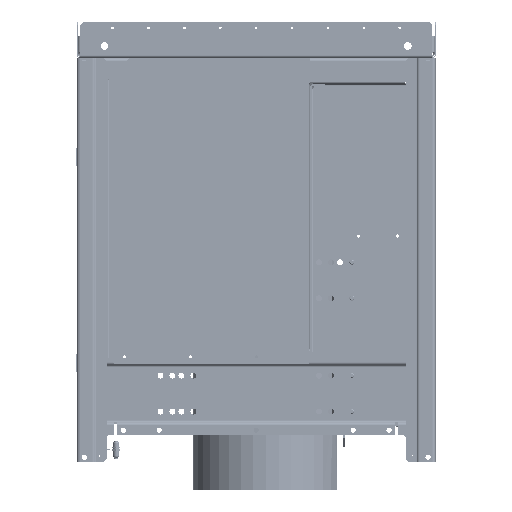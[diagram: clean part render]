
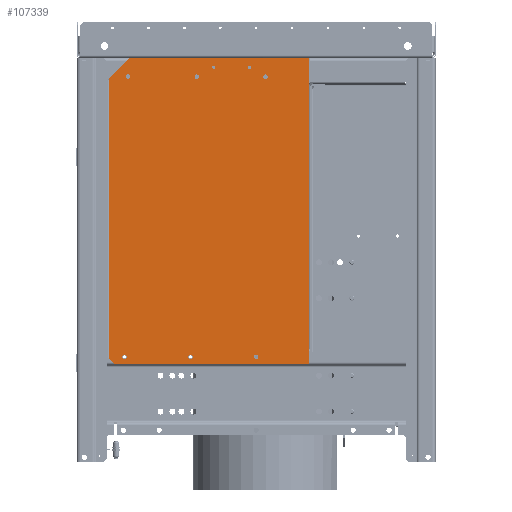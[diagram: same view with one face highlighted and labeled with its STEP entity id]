
A CAD part, left-side view. The second image highlights one B-rep face of the part: STEP entity #107339.
In plain terms, the highlighted planar face has unit normal (-1, 0, 0) as drawn and (0, 0, -1) by its records, which use the part's own axes.
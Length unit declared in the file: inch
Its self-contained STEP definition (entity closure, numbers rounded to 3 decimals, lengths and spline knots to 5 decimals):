
#106442=CARTESIAN_POINT('',(-11.25,18.79402,-0.0396));
#106443=DIRECTION('',(0.,0.,-1.));
#106444=DIRECTION('',(-1.,0.,0.));
#106445=AXIS2_PLACEMENT_3D('',#106442,#106443,#106444);
#106447=CARTESIAN_POINT('',(-11.25,18.79402,-0.0396));
#106448=DIRECTION('',(0.,0.,-1.));
#106449=DIRECTION('',(1.,0.,0.));
#106450=AXIS2_PLACEMENT_3D('',#106447,#106448,#106449);
#106452=CARTESIAN_POINT('',(-11.25,13.04402,-0.0396));
#106453=DIRECTION('',(0.,0.,-1.));
#106454=DIRECTION('',(-1.,0.,0.));
#106455=AXIS2_PLACEMENT_3D('',#106452,#106453,#106454);
#106457=CARTESIAN_POINT('',(-11.25,13.04402,-0.0396));
#106458=DIRECTION('',(0.,0.,-1.));
#106459=DIRECTION('',(1.,0.,0.));
#106460=AXIS2_PLACEMENT_3D('',#106457,#106458,#106459);
#106462=CARTESIAN_POINT('',(-11.25,7.29402,-0.0396));
#106463=DIRECTION('',(0.,0.,-1.));
#106464=DIRECTION('',(-1.,0.,0.));
#106465=AXIS2_PLACEMENT_3D('',#106462,#106463,#106464);
#106467=CARTESIAN_POINT('',(-11.25,7.29402,-0.0396));
#106468=DIRECTION('',(0.,0.,-1.));
#106469=DIRECTION('',(1.,0.,0.));
#106470=AXIS2_PLACEMENT_3D('',#106467,#106468,#106469);
#106472=CARTESIAN_POINT('',(12.18,19.08402,-0.0396));
#106473=DIRECTION('',(0.,0.,-1.));
#106474=DIRECTION('',(-1.,0.,0.));
#106475=AXIS2_PLACEMENT_3D('',#106472,#106473,#106474);
#106477=CARTESIAN_POINT('',(12.18,19.08402,-0.0396));
#106478=DIRECTION('',(0.,0.,-1.));
#106479=DIRECTION('',(1.,0.,0.));
#106480=AXIS2_PLACEMENT_3D('',#106477,#106478,#106479);
#106482=CARTESIAN_POINT('',(12.18,13.58402,-0.0396));
#106483=DIRECTION('',(0.,0.,-1.));
#106484=DIRECTION('',(-1.,0.,0.));
#106485=AXIS2_PLACEMENT_3D('',#106482,#106483,#106484);
#106487=CARTESIAN_POINT('',(12.18,13.58402,-0.0396));
#106488=DIRECTION('',(0.,0.,-1.));
#106489=DIRECTION('',(1.,0.,0.));
#106490=AXIS2_PLACEMENT_3D('',#106487,#106488,#106489);
#106492=CARTESIAN_POINT('',(12.18,8.08402,-0.0396));
#106493=DIRECTION('',(0.,0.,-1.));
#106494=DIRECTION('',(-1.,0.,0.));
#106495=AXIS2_PLACEMENT_3D('',#106492,#106493,#106494);
#106497=CARTESIAN_POINT('',(12.18,8.08402,-0.0396));
#106498=DIRECTION('',(0.,0.,-1.));
#106499=DIRECTION('',(1.,0.,0.));
#106500=AXIS2_PLACEMENT_3D('',#106497,#106498,#106499);
#106502=CARTESIAN_POINT('',(-12.04,11.63322,-0.0396));
#106503=DIRECTION('',(0.,0.,1.));
#106504=DIRECTION('',(-1.,0.,0.));
#106505=AXIS2_PLACEMENT_3D('',#106502,#106503,#106504);
#106507=CARTESIAN_POINT('',(-12.04,11.63322,-0.0396));
#106508=DIRECTION('',(0.,0.,1.));
#106509=DIRECTION('',(1.,0.,0.));
#106510=AXIS2_PLACEMENT_3D('',#106507,#106508,#106509);
#106512=CARTESIAN_POINT('',(-12.04,8.63322,-0.0396));
#106513=DIRECTION('',(0.,0.,1.));
#106514=DIRECTION('',(-1.,0.,0.));
#106515=AXIS2_PLACEMENT_3D('',#106512,#106513,#106514);
#106517=CARTESIAN_POINT('',(-12.04,8.63322,-0.0396));
#106518=DIRECTION('',(0.,0.,1.));
#106519=DIRECTION('',(1.,0.,0.));
#106520=AXIS2_PLACEMENT_3D('',#106517,#106518,#106519);
#106522=DIRECTION('',(-0.707,-0.707,0.));
#106523=VECTOR('',#106522,2.35834);
#106524=CARTESIAN_POINT('',(-11.1124,20.34442,-0.0396));
#106525=LINE('',#106524,#106523);
#106526=DIRECTION('',(0.,-1.,0.));
#106527=VECTOR('',#106526,14.9836);
#106528=CARTESIAN_POINT('',(-12.78,18.67682,-0.0396));
#106529=LINE('',#106528,#106527);
#106530=DIRECTION('',(1.,0.,0.));
#106531=VECTOR('',#106530,2.2);
#106532=CARTESIAN_POINT('',(-12.78,3.69322,-0.0396));
#106533=LINE('',#106532,#106531);
#106534=DIRECTION('',(-1.,0.,0.));
#106535=VECTOR('',#106534,1.25);
#106536=CARTESIAN_POINT('',(12.78,3.69322,-0.0396));
#106537=LINE('',#106536,#106535);
#106538=DIRECTION('',(0.,1.,0.));
#106539=VECTOR('',#106538,16.2336);
#106540=CARTESIAN_POINT('',(12.78,3.69322,-0.0396));
#106541=LINE('',#106540,#106539);
#106542=DIRECTION('',(0.707,-0.707,0.));
#106543=VECTOR('',#106542,0.59058);
#106544=CARTESIAN_POINT('',(12.3624,20.34442,-0.0396));
#106545=LINE('',#106544,#106543);
#106833=DIRECTION('',(-1.,0.,0.));
#106834=VECTOR('',#106833,23.4748);
#106835=CARTESIAN_POINT('',(12.3624,20.34442,-0.0396));
#106836=LINE('',#106835,#106834);
#106985=DIRECTION('',(1.,0.,0.));
#106986=VECTOR('',#106985,22.11);
#106987=CARTESIAN_POINT('',(-10.58,3.69322,-0.0396));
#106988=LINE('',#106987,#106986);
#106998=CARTESIAN_POINT('',(-11.44,18.79402,-0.0396));
#106999=CARTESIAN_POINT('',(-11.06,18.79402,-0.0396));
#107000=VERTEX_POINT('',#106998);
#107001=VERTEX_POINT('',#106999);
#107006=CARTESIAN_POINT('',(-11.44,13.04402,-0.0396));
#107007=CARTESIAN_POINT('',(-11.06,13.04402,-0.0396));
#107008=VERTEX_POINT('',#107006);
#107009=VERTEX_POINT('',#107007);
#107014=CARTESIAN_POINT('',(-11.44,7.29402,-0.0396));
#107015=CARTESIAN_POINT('',(-11.06,7.29402,-0.0396));
#107016=VERTEX_POINT('',#107014);
#107017=VERTEX_POINT('',#107015);
#107022=CARTESIAN_POINT('',(11.99,19.08402,-0.0396));
#107023=CARTESIAN_POINT('',(12.37,19.08402,-0.0396));
#107024=VERTEX_POINT('',#107022);
#107025=VERTEX_POINT('',#107023);
#107030=CARTESIAN_POINT('',(11.99,13.58402,-0.0396));
#107031=CARTESIAN_POINT('',(12.37,13.58402,-0.0396));
#107032=VERTEX_POINT('',#107030);
#107033=VERTEX_POINT('',#107031);
#107038=CARTESIAN_POINT('',(11.99,8.08402,-0.0396));
#107039=CARTESIAN_POINT('',(12.37,8.08402,-0.0396));
#107040=VERTEX_POINT('',#107038);
#107041=VERTEX_POINT('',#107039);
#107086=CARTESIAN_POINT('',(-12.78,3.69322,-0.0396));
#107087=CARTESIAN_POINT('',(-10.58,3.69322,-0.0396));
#107088=VERTEX_POINT('',#107086);
#107089=VERTEX_POINT('',#107087);
#107090=CARTESIAN_POINT('',(12.78,3.69322,-0.0396));
#107091=CARTESIAN_POINT('',(11.53,3.69322,-0.0396));
#107092=VERTEX_POINT('',#107090);
#107093=VERTEX_POINT('',#107091);
#107110=CARTESIAN_POINT('',(-12.18,11.63322,-0.0396));
#107111=CARTESIAN_POINT('',(-11.9,11.63322,-0.0396));
#107112=VERTEX_POINT('',#107110);
#107113=VERTEX_POINT('',#107111);
#107118=CARTESIAN_POINT('',(-12.18,8.63322,-0.0396));
#107119=CARTESIAN_POINT('',(-11.9,8.63322,-0.0396));
#107120=VERTEX_POINT('',#107118);
#107121=VERTEX_POINT('',#107119);
#107146=CARTESIAN_POINT('',(-11.1124,20.34442,-0.0396));
#107147=CARTESIAN_POINT('',(-12.78,18.67682,-0.0396));
#107148=VERTEX_POINT('',#107146);
#107149=VERTEX_POINT('',#107147);
#107150=CARTESIAN_POINT('',(12.3624,20.34442,-0.0396));
#107151=CARTESIAN_POINT('',(12.78,19.92682,-0.0396));
#107152=VERTEX_POINT('',#107150);
#107153=VERTEX_POINT('',#107151);
#107270=CARTESIAN_POINT('',(0.,0.,-0.0396));
#107271=DIRECTION('',(0.,0.,1.));
#107272=DIRECTION('',(1.,0.,0.));
#107273=AXIS2_PLACEMENT_3D('',#107270,#107271,#107272);
#107274=PLANE('',#107273);
#107276=ORIENTED_EDGE('',*,*,#107275,.T.);
#107278=ORIENTED_EDGE('',*,*,#107277,.T.);
#107280=ORIENTED_EDGE('',*,*,#107279,.T.);
#107282=ORIENTED_EDGE('',*,*,#107281,.T.);
#107284=ORIENTED_EDGE('',*,*,#107283,.F.);
#107286=ORIENTED_EDGE('',*,*,#107285,.T.);
#107288=ORIENTED_EDGE('',*,*,#107287,.F.);
#107290=ORIENTED_EDGE('',*,*,#107289,.T.);
#107291=EDGE_LOOP('',(#107276,#107278,#107280,#107282,#107284,#107286,#107288,
#107290));
#107292=FACE_OUTER_BOUND('',#107291,.F.);
#107294=ORIENTED_EDGE('',*,*,#107293,.T.);
#107296=ORIENTED_EDGE('',*,*,#107295,.T.);
#107297=EDGE_LOOP('',(#107294,#107296));
#107298=FACE_BOUND('',#107297,.F.);
#107300=ORIENTED_EDGE('',*,*,#107299,.T.);
#107302=ORIENTED_EDGE('',*,*,#107301,.T.);
#107303=EDGE_LOOP('',(#107300,#107302));
#107304=FACE_BOUND('',#107303,.F.);
#107306=ORIENTED_EDGE('',*,*,#107305,.T.);
#107308=ORIENTED_EDGE('',*,*,#107307,.T.);
#107309=EDGE_LOOP('',(#107306,#107308));
#107310=FACE_BOUND('',#107309,.F.);
#107312=ORIENTED_EDGE('',*,*,#107311,.T.);
#107314=ORIENTED_EDGE('',*,*,#107313,.T.);
#107315=EDGE_LOOP('',(#107312,#107314));
#107316=FACE_BOUND('',#107315,.F.);
#107318=ORIENTED_EDGE('',*,*,#107317,.T.);
#107320=ORIENTED_EDGE('',*,*,#107319,.T.);
#107321=EDGE_LOOP('',(#107318,#107320));
#107322=FACE_BOUND('',#107321,.F.);
#107324=ORIENTED_EDGE('',*,*,#107323,.F.);
#107326=ORIENTED_EDGE('',*,*,#107325,.F.);
#107327=EDGE_LOOP('',(#107324,#107326));
#107328=FACE_BOUND('',#107327,.F.);
#107330=ORIENTED_EDGE('',*,*,#107329,.F.);
#107332=ORIENTED_EDGE('',*,*,#107331,.F.);
#107333=EDGE_LOOP('',(#107330,#107332));
#107334=FACE_BOUND('',#107333,.F.);
#107335=ORIENTED_EDGE('',*,*,#107250,.T.);
#107336=ORIENTED_EDGE('',*,*,#107264,.T.);
#107337=EDGE_LOOP('',(#107335,#107336));
#107338=FACE_BOUND('',#107337,.F.);
#107339=ADVANCED_FACE('',(#107292,#107298,#107304,#107310,#107316,#107322,
#107328,#107334,#107338),#107274,.F.);
#106446=CIRCLE('',#106445,0.19);
#106451=CIRCLE('',#106450,0.19);
#106456=CIRCLE('',#106455,0.19);
#106461=CIRCLE('',#106460,0.19);
#106466=CIRCLE('',#106465,0.19);
#106471=CIRCLE('',#106470,0.19);
#106476=CIRCLE('',#106475,0.19);
#106481=CIRCLE('',#106480,0.19);
#106486=CIRCLE('',#106485,0.19);
#106491=CIRCLE('',#106490,0.19);
#106496=CIRCLE('',#106495,0.19);
#106501=CIRCLE('',#106500,0.19);
#106506=CIRCLE('',#106505,0.14);
#106511=CIRCLE('',#106510,0.14);
#106516=CIRCLE('',#106515,0.14);
#106521=CIRCLE('',#106520,0.14);
#107250=EDGE_CURVE('',#107000,#107001,#106446,.T.);
#107264=EDGE_CURVE('',#107001,#107000,#106451,.T.);
#107275=EDGE_CURVE('',#107148,#107149,#106525,.T.);
#107277=EDGE_CURVE('',#107149,#107088,#106529,.T.);
#107279=EDGE_CURVE('',#107088,#107089,#106533,.T.);
#107281=EDGE_CURVE('',#107089,#107093,#106988,.T.);
#107283=EDGE_CURVE('',#107092,#107093,#106537,.T.);
#107285=EDGE_CURVE('',#107092,#107153,#106541,.T.);
#107287=EDGE_CURVE('',#107152,#107153,#106545,.T.);
#107289=EDGE_CURVE('',#107152,#107148,#106836,.T.);
#107293=EDGE_CURVE('',#107008,#107009,#106456,.T.);
#107295=EDGE_CURVE('',#107009,#107008,#106461,.T.);
#107299=EDGE_CURVE('',#107016,#107017,#106466,.T.);
#107301=EDGE_CURVE('',#107017,#107016,#106471,.T.);
#107305=EDGE_CURVE('',#107024,#107025,#106476,.T.);
#107307=EDGE_CURVE('',#107025,#107024,#106481,.T.);
#107311=EDGE_CURVE('',#107032,#107033,#106486,.T.);
#107313=EDGE_CURVE('',#107033,#107032,#106491,.T.);
#107317=EDGE_CURVE('',#107040,#107041,#106496,.T.);
#107319=EDGE_CURVE('',#107041,#107040,#106501,.T.);
#107323=EDGE_CURVE('',#107112,#107113,#106506,.T.);
#107325=EDGE_CURVE('',#107113,#107112,#106511,.T.);
#107329=EDGE_CURVE('',#107120,#107121,#106516,.T.);
#107331=EDGE_CURVE('',#107121,#107120,#106521,.T.);
